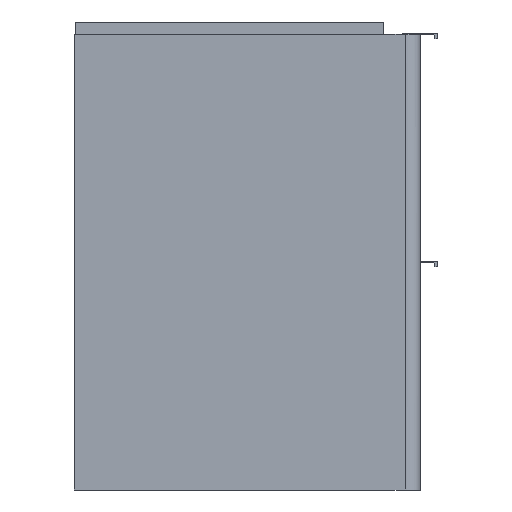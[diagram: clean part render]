
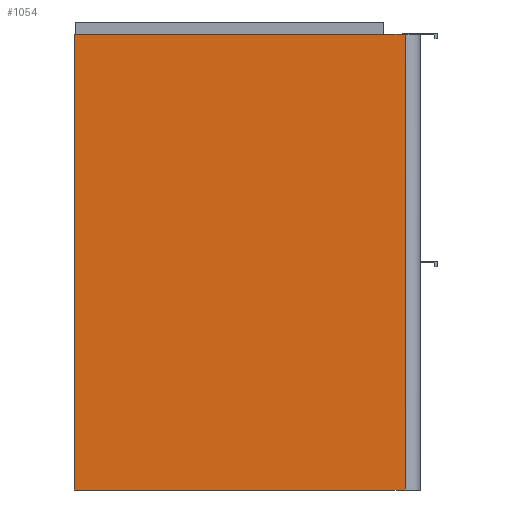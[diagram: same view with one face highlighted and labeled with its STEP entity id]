
A CAD part, left-side view. The second image highlights one B-rep face of the part: STEP entity #1054.
In plain terms, the highlighted planar face has unit normal (-1, 0, 0).
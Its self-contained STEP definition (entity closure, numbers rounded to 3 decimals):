
#1054=ADVANCED_FACE('',(#1649),#10891,.T.);
#1649=FACE_OUTER_BOUND('',#2338,.T.);
#2338=EDGE_LOOP('',(#5717,#5718,#5719,#5720));
#5717=ORIENTED_EDGE('',*,*,#7490,.F.);
#5718=ORIENTED_EDGE('',*,*,#7497,.T.);
#5719=ORIENTED_EDGE('',*,*,#7498,.T.);
#5720=ORIENTED_EDGE('',*,*,#7493,.T.);
#7490=EDGE_CURVE('',#10433,#10434,#8776,.T.);
#7493=EDGE_CURVE('',#10436,#10434,#8778,.T.);
#7497=EDGE_CURVE('',#10433,#10439,#8782,.T.);
#7498=EDGE_CURVE('',#10439,#10436,#8783,.T.);
#8776=B_SPLINE_CURVE_WITH_KNOTS('',1,(#20342,#20343),.UNSPECIFIED.,.F.,
 .F.,(2,2),(0.,515.),.UNSPECIFIED.);
#8778=B_SPLINE_CURVE_WITH_KNOTS('',1,(#20349,#20350),.UNSPECIFIED.,.F.,
 .F.,(2,2),(-374.,0.),.UNSPECIFIED.);
#8782=B_SPLINE_CURVE_WITH_KNOTS('',1,(#20357,#20358),.UNSPECIFIED.,.F.,
 .F.,(2,2),(-374.,0.),.UNSPECIFIED.);
#8783=B_SPLINE_CURVE_WITH_KNOTS('',1,(#20359,#20360),.UNSPECIFIED.,.F.,
 .F.,(2,2),(-515.,0.),.UNSPECIFIED.);
#10433=VERTEX_POINT('',#20330);
#10434=VERTEX_POINT('',#20331);
#10436=VERTEX_POINT('',#20333);
#10439=VERTEX_POINT('',#20336);
#10891=PLANE('',#12003);
#12003=AXIS2_PLACEMENT_3D('',#20324,#12572,$);
#12572=DIRECTION('',(-1.,0.,0.));
#20324=CARTESIAN_POINT('',(-464.75,233.02,-51.62));
#20330=CARTESIAN_POINT('',(-464.75,-178.5,515.));
#20331=CARTESIAN_POINT('',(-464.75,-178.5,0.));
#20333=CARTESIAN_POINT('',(-464.75,195.5,0.));
#20336=CARTESIAN_POINT('',(-464.75,195.5,515.));
#20342=CARTESIAN_POINT('',(-464.75,-178.5,515.));
#20343=CARTESIAN_POINT('',(-464.75,-178.5,0.));
#20349=CARTESIAN_POINT('',(-464.75,195.5,0.));
#20350=CARTESIAN_POINT('',(-464.75,-178.5,0.));
#20357=CARTESIAN_POINT('',(-464.75,-178.5,515.));
#20358=CARTESIAN_POINT('',(-464.75,195.5,515.));
#20359=CARTESIAN_POINT('',(-464.75,195.5,515.));
#20360=CARTESIAN_POINT('',(-464.75,195.5,0.));
